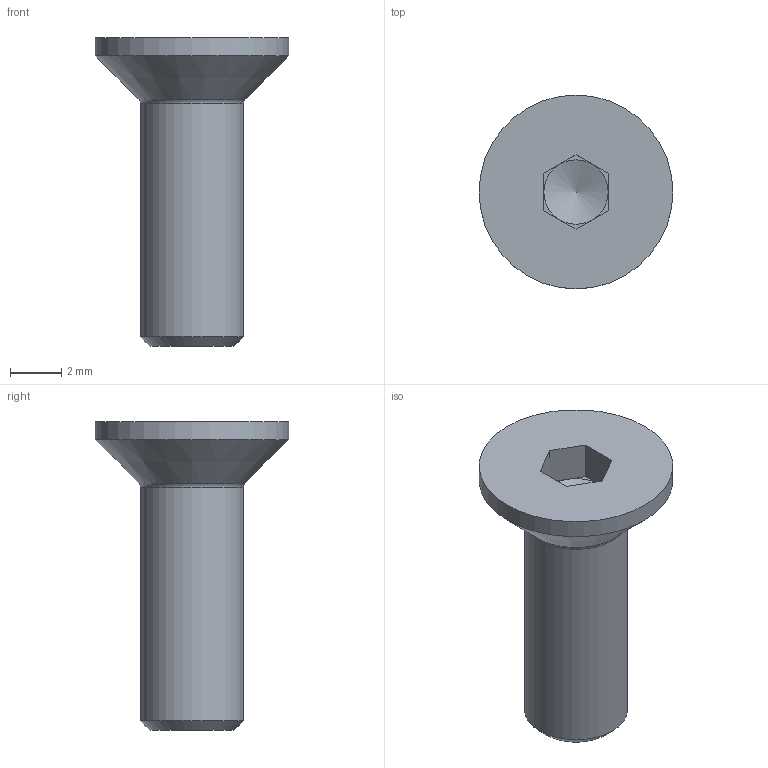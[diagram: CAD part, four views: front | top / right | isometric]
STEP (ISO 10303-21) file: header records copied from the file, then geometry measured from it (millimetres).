
FILE_DESCRIPTION(/* description */ ('STEP AP242 Edition 2','CAx-IF Rec.Pracs.---Representation and Presentation of Product Manufacturing Information (PMI)---4.0---2014-10-13','CAx-IF Rec.Pracs.---3D Tessellated Geometry---0.4---2014-09-14','2;1','CAx-IF Rec.Pracs.---User Defined Attributes---1.5---2016-08-15'),/* implementation_level */ '2;1');
FILE_NAME(/* name */ 'Assy_ForMFG - Hex socket countersunk head screw M4x0.7 x 12 (5)',/* time_stamp */ '2026-05-15T19:56:11Z',/* author */ (''),/* organization */ (''),/* preprocessor_version */ 'ST-DEVELOPER v20',/* originating_system */ 'ONSHAPE BY PTC INC, 1.215',/* authorisation */ ' ');
FILE_SCHEMA (('AP242_MANAGED_MODEL_BASED_3D_ENGINEERING_MIM_LF { 1 0 10303 442 3 1 4 }'));
Length unit declared in the file: metre
Products named in the file (1): Hex socket countersunk head screw M4x0.7 x 12
Bounding box: 7.53 x 7.53 x 12 mm (x, y, z)
Volume: 189.3 mm3; surface area: 249.1 mm2
Topology: 1 solids, 1 shells, 20 faces, 44 edges, 26 vertices
Faces by surface type: plane 14, cone 3, cylinder 2, torus 1
Full cylindrical faces by diameter (mm): 4 x1, 7.53 x1
Entity records: 518 total; most frequent: DIRECTION 90, CARTESIAN_POINT 82, ORIENTED_EDGE 72, EDGE_CURVE 36, AXIS2_PLACEMENT_3D 33, FACE_BOUND 27, EDGE_LOOP 26, VERTEX_POINT 25
